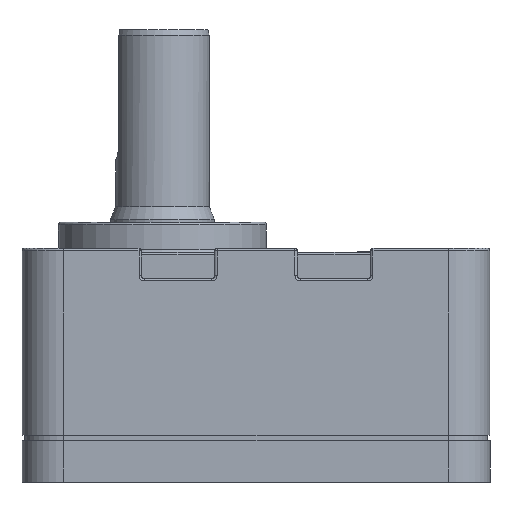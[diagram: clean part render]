
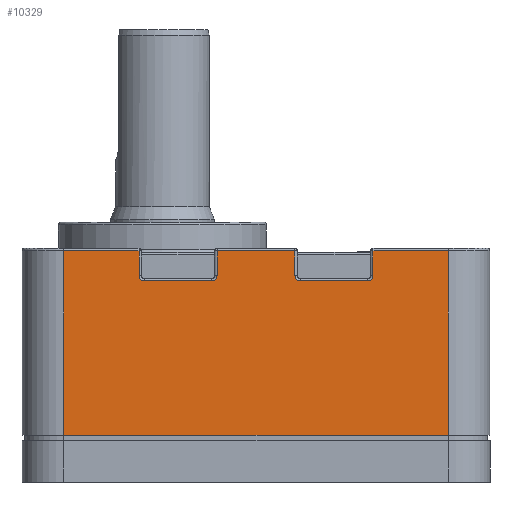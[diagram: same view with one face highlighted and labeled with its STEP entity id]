
A CAD part, left-side view. The second image highlights one B-rep face of the part: STEP entity #10329.
In plain terms, the highlighted planar face has unit normal (-1, 0, 0).
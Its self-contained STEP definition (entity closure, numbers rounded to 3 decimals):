
#9985=CARTESIAN_POINT('',(-90.,8.,71.037));
#9986=VERTEX_POINT('',#9985);
#9995=CARTESIAN_POINT('',(-90.,22.5,71.037));
#9996=VERTEX_POINT('',#9995);
#10004=CARTESIAN_POINT('',(-90.,22.5,71.037));
#10005=DIRECTION('',(0.0,-1.0,0.0));
#10006=VECTOR('',#10005,14.5);
#10007=LINE('',#10004,#10006);
#10008=EDGE_CURVE('',#9996,#9986,#10007,.T.);
#10199=CARTESIAN_POINT('',(-90.,90.,71.537));
#10200=DIRECTION('',(-1.0,0.0,0.0));
#10201=DIRECTION('',(0.0,0.0,-1.0));
#10202=AXIS2_PLACEMENT_3D('',#10199,#10200,#10201);
#10203=PLANE('',#10202);
#10204=ORIENTED_EDGE('',*,*,#10008,.F.);
#10205=CARTESIAN_POINT('',(-90.,22.5,66.237));
#10206=VERTEX_POINT('',#10205);
#10207=CARTESIAN_POINT('',(-90.,22.5,66.237));
#10208=DIRECTION('',(0.0,0.0,1.0));
#10209=VECTOR('',#10208,4.8);
#10210=LINE('',#10207,#10209);
#10211=EDGE_CURVE('',#10206,#9996,#10210,.T.);
#10212=ORIENTED_EDGE('',*,*,#10211,.F.);
#10213=CARTESIAN_POINT('',(-90.,23.5,65.237));
#10214=VERTEX_POINT('',#10213);
#10215=CARTESIAN_POINT('',(-90.,23.5,66.237));
#10216=DIRECTION('',(-1.0,0.,0.));
#10217=DIRECTION('',(0.,-0.707,-0.707));
#10218=AXIS2_PLACEMENT_3D('',#10215,#10216,#10217);
#10219=CIRCLE('',#10218,1.0);
#10220=EDGE_CURVE('',#10214,#10206,#10219,.T.);
#10221=ORIENTED_EDGE('',*,*,#10220,.F.);
#10222=CARTESIAN_POINT('',(-90.,36.5,65.237));
#10223=VERTEX_POINT('',#10222);
#10224=CARTESIAN_POINT('',(-90.,36.5,65.237));
#10225=DIRECTION('',(0.0,-1.0,0.0));
#10226=VECTOR('',#10225,13.);
#10227=LINE('',#10224,#10226);
#10228=EDGE_CURVE('',#10223,#10214,#10227,.T.);
#10229=ORIENTED_EDGE('',*,*,#10228,.F.);
#10230=CARTESIAN_POINT('',(-90.,37.5,66.237));
#10231=VERTEX_POINT('',#10230);
#10232=CARTESIAN_POINT('',(-90.,36.5,66.237));
#10233=DIRECTION('',(-1.0,0.,0.));
#10234=DIRECTION('',(0.,0.707,-0.707));
#10235=AXIS2_PLACEMENT_3D('',#10232,#10233,#10234);
#10236=CIRCLE('',#10235,1.0);
#10237=EDGE_CURVE('',#10231,#10223,#10236,.T.);
#10238=ORIENTED_EDGE('',*,*,#10237,.F.);
#10239=CARTESIAN_POINT('',(-90.,37.5,71.037));
#10240=VERTEX_POINT('',#10239);
#10241=CARTESIAN_POINT('',(-90.,37.5,71.037));
#10242=DIRECTION('',(0.0,0.0,-1.0));
#10243=VECTOR('',#10242,4.8);
#10244=LINE('',#10241,#10243);
#10245=EDGE_CURVE('',#10240,#10231,#10244,.T.);
#10246=ORIENTED_EDGE('',*,*,#10245,.F.);
#10247=CARTESIAN_POINT('',(-90.,52.5,71.037));
#10248=VERTEX_POINT('',#10247);
#10249=CARTESIAN_POINT('',(-90.,52.5,71.037));
#10250=DIRECTION('',(0.0,-1.0,0.0));
#10251=VECTOR('',#10250,15.0);
#10252=LINE('',#10249,#10251);
#10253=EDGE_CURVE('',#10248,#10240,#10252,.T.);
#10254=ORIENTED_EDGE('',*,*,#10253,.F.);
#10255=CARTESIAN_POINT('',(-90.,52.5,66.237));
#10256=VERTEX_POINT('',#10255);
#10257=CARTESIAN_POINT('',(-90.,52.5,66.237));
#10258=DIRECTION('',(0.0,0.0,1.0));
#10259=VECTOR('',#10258,4.8);
#10260=LINE('',#10257,#10259);
#10261=EDGE_CURVE('',#10256,#10248,#10260,.T.);
#10262=ORIENTED_EDGE('',*,*,#10261,.F.);
#10263=CARTESIAN_POINT('',(-90.,53.5,65.237));
#10264=VERTEX_POINT('',#10263);
#10265=CARTESIAN_POINT('',(-90.,53.5,66.237));
#10266=DIRECTION('',(-1.0,0.,0.));
#10267=DIRECTION('',(0.,-0.707,-0.707));
#10268=AXIS2_PLACEMENT_3D('',#10265,#10266,#10267);
#10269=CIRCLE('',#10268,1.0);
#10270=EDGE_CURVE('',#10264,#10256,#10269,.T.);
#10271=ORIENTED_EDGE('',*,*,#10270,.F.);
#10272=CARTESIAN_POINT('',(-90.,66.5,65.237));
#10273=VERTEX_POINT('',#10272);
#10274=CARTESIAN_POINT('',(-90.,66.5,65.237));
#10275=DIRECTION('',(0.0,-1.0,0.0));
#10276=VECTOR('',#10275,13.0);
#10277=LINE('',#10274,#10276);
#10278=EDGE_CURVE('',#10273,#10264,#10277,.T.);
#10279=ORIENTED_EDGE('',*,*,#10278,.F.);
#10280=CARTESIAN_POINT('',(-90.,67.5,66.237));
#10281=VERTEX_POINT('',#10280);
#10282=CARTESIAN_POINT('',(-90.,66.5,66.237));
#10283=DIRECTION('',(-1.0,0.,0.));
#10284=DIRECTION('',(0.,0.707,-0.707));
#10285=AXIS2_PLACEMENT_3D('',#10282,#10283,#10284);
#10286=CIRCLE('',#10285,1.0);
#10287=EDGE_CURVE('',#10281,#10273,#10286,.T.);
#10288=ORIENTED_EDGE('',*,*,#10287,.F.);
#10289=CARTESIAN_POINT('',(-90.,67.5,71.037));
#10290=VERTEX_POINT('',#10289);
#10291=CARTESIAN_POINT('',(-90.,67.5,71.037));
#10292=DIRECTION('',(0.0,0.0,-1.0));
#10293=VECTOR('',#10292,4.8);
#10294=LINE('',#10291,#10293);
#10295=EDGE_CURVE('',#10290,#10281,#10294,.T.);
#10296=ORIENTED_EDGE('',*,*,#10295,.F.);
#10297=CARTESIAN_POINT('',(-90.,82.,71.037));
#10298=VERTEX_POINT('',#10297);
#10299=CARTESIAN_POINT('',(-90.,82.,71.037));
#10300=DIRECTION('',(0.0,-1.0,0.0));
#10301=VECTOR('',#10300,14.5);
#10302=LINE('',#10299,#10301);
#10303=EDGE_CURVE('',#10298,#10290,#10302,.T.);
#10304=ORIENTED_EDGE('',*,*,#10303,.F.);
#10305=CARTESIAN_POINT('',(-90.,82.,35.537));
#10306=VERTEX_POINT('',#10305);
#10307=CARTESIAN_POINT('',(-90.,82.,35.537));
#10308=DIRECTION('',(0.0,0.0,1.0));
#10309=VECTOR('',#10308,35.5);
#10310=LINE('',#10307,#10309);
#10311=EDGE_CURVE('',#10306,#10298,#10310,.T.);
#10312=ORIENTED_EDGE('',*,*,#10311,.F.);
#10313=CARTESIAN_POINT('',(-90.,8.,35.537));
#10314=VERTEX_POINT('',#10313);
#10315=CARTESIAN_POINT('',(-90.,82.,35.537));
#10316=DIRECTION('',(0.0,-1.0,0.0));
#10317=VECTOR('',#10316,74.);
#10318=LINE('',#10315,#10317);
#10319=EDGE_CURVE('',#10306,#10314,#10318,.T.);
#10320=ORIENTED_EDGE('',*,*,#10319,.T.);
#10321=CARTESIAN_POINT('',(-90.,8.,71.037));
#10322=DIRECTION('',(0.0,0.0,-1.0));
#10323=VECTOR('',#10322,35.5);
#10324=LINE('',#10321,#10323);
#10325=EDGE_CURVE('',#9986,#10314,#10324,.T.);
#10326=ORIENTED_EDGE('',*,*,#10325,.F.);
#10327=EDGE_LOOP('',(#10204,#10212,#10221,#10229,#10238,#10246,#10254,#10262,#10271,#10279,#10288,#10296,#10304,#10312,#10320,#10326));
#10328=FACE_OUTER_BOUND('',#10327,.T.);
#10329=ADVANCED_FACE('',(#10328),#10203,.T.);
